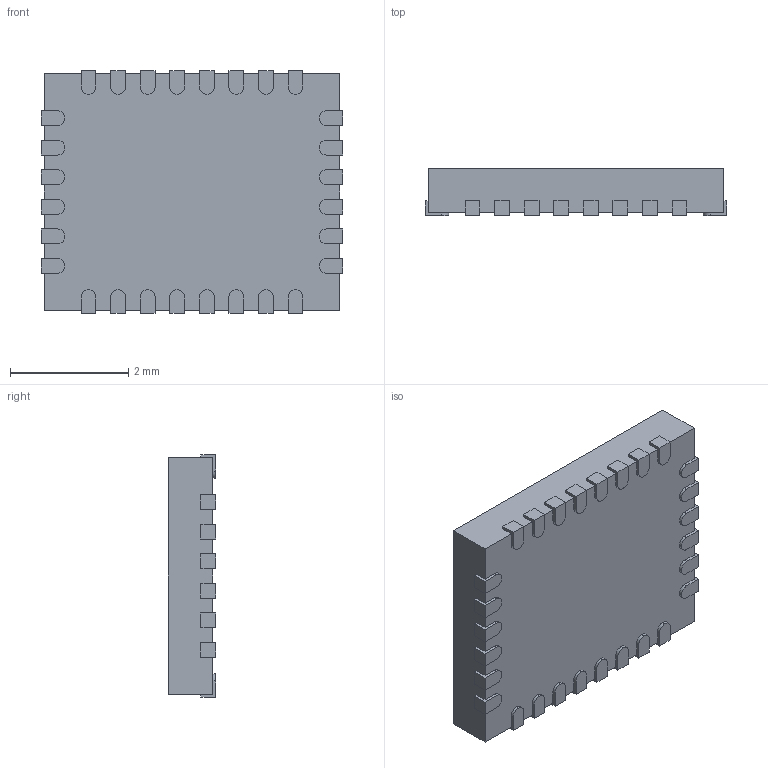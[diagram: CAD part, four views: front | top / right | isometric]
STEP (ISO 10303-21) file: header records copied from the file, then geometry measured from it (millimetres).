
FILE_DESCRIPTION (( 'STEP AP214' ), '1' );
FILE_NAME ( 'QFN50P500X400X80-28.STEP', '2014-04-11T12:31:20', ( '' ), ( '' ), 'FPX Expert 2013', 'PCB Libraries', '' );
FILE_SCHEMA (( 'AUTOMOTIVE_DESIGN' ));
Length unit declared in the file: millimetre
Products named in the file (1): QFN50P500X400X80-28
Bounding box: 5.1 x 0.8 x 4.1 mm (x, y, z)
Volume: 15.2 mm3; surface area: 63.8 mm2
Topology: 29 solids, 29 shells, 261 faces, 606 edges, 404 vertices
Faces by surface type: plane 203, cylinder 56, torus 2
Entity records: 8431 total; most frequent: CARTESIAN_POINT 1272, DIRECTION 1248, ORIENTED_EDGE 1212, EDGE_CURVE 606, VECTOR 488, LINE 488, VERTEX_POINT 404, AXIS2_PLACEMENT_3D 380
